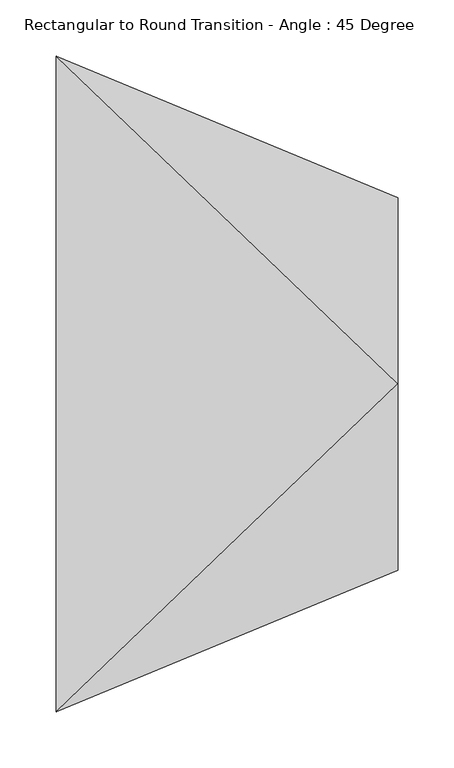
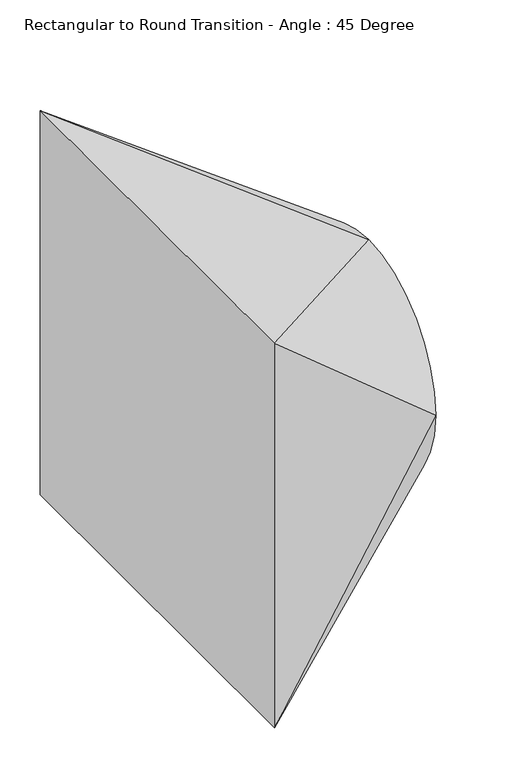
"""IFC4 building model written with IfcOpenShell, lengths in millimetres: duct fitting geometry, Rectangular to Round Transition - Angle : 45 Degree."""

from ifc_helpers import new_model, si_unit, frame, origin, place, context, project, spatial, circle_curve, source, transform, mapped, element, save
from ifc_brep_helpers import plane_surface, spline_surface, advanced_brep


def rectangular_to_round_transition_angle_45_degree_ca064078(model_context):
    return source(origin(), model_context, "Body", "AdvancedBrep", [
        advanced_brep(
        [(303.0139797, 0.0, 165.0), (303.0139797, -165.0, 0.0), (303.0139797, 0.0, -165.0), (303.0139797, 165.0, 0.0), (0.0, -290.5125, 290.5125), (0.0, 290.5125, 290.5125), (0.0, 290.5125, -290.5125), (0.0, -290.5125, -290.5125)],
        [
            (0, 1, circle_curve(frame((303.0139797, 0.0, 0.0), z_axis=(1.0, 0.0, 0.0), x_axis=(0.0, 1.0, 0.0)), 165.0)),
            (1, 2, circle_curve(frame((303.0139797, 0.0, 0.0), z_axis=(1.0, 0.0, 0.0), x_axis=(0.0, 1.0, 0.0)), 165.0)),
            (2, 3, circle_curve(frame((303.0139797, 0.0, 0.0), z_axis=(1.0, 0.0, 0.0), x_axis=(0.0, 1.0, 0.0)), 165.0)),
            (3, 0, circle_curve(frame((303.0139797, 0.0, 0.0), z_axis=(1.0, 0.0, 0.0), x_axis=(0.0, 1.0, 0.0)), 165.0)),
            (4, 5),
            (5, 6),
            (6, 7),
            (7, 4),
            (0, 4),
            (4, 1),
            (7, 1),
            (7, 2),
            (6, 2),
            (6, 3),
            (5, 3),
            (5, 0),
        ],
        [
            plane_surface(frame((303.0139797, 0.0, 0.0), z_axis=(1.0, 0.0, 0.0), x_axis=(0.0, 0.0, -1.0))),
            plane_surface(frame((0.0, 0.0, 0.0), z_axis=(-1.0, 0.0, 0.0), x_axis=(0.0, 0.0, -1.0))),
            spline_surface(2, 1, [[(0.0, -290.5125, 290.5125), (303.0139797, 0.0, 165.0)], [(0.0, -290.5125, 290.5125), (303.0139797, -165.0, 165.0)], [(0.0, -290.5125, 290.5125), (303.0139797, -165.0, 0.0)]], [3, 3], [2, 2], [0.0, 1.0], [0.0, 1.0], weights=[[1.0, 1.0], [0.7071067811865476, 0.7071067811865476], [1.0, 1.0]]),
            plane_surface(frame((0.0, -290.5125, 0.0), z_axis=(0.38268343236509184, -0.923879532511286, 0.0), x_axis=(0.0, 0.0, -1.0))),
            spline_surface(2, 1, [[(0.0, -290.5125, -290.5125), (303.0139797, -165.0, 0.0)], [(0.0, -290.5125, -290.5125), (303.0139797, -165.0, -165.0)], [(0.0, -290.5125, -290.5125), (303.0139797, 0.0, -165.0)]], [3, 3], [2, 2], [0.0, 1.0], [0.0, 1.0], weights=[[1.0, 1.0], [0.7071067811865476, 0.7071067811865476], [1.0, 1.0]]),
            plane_surface(frame((0.0, 0.0, -290.5125), z_axis=(0.38268343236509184, 0.0, -0.923879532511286), x_axis=(0.0, 1.0, 0.0))),
            spline_surface(2, 1, [[(0.0, 290.5125, -290.5125), (303.0139797, 0.0, -165.0)], [(0.0, 290.5125, -290.5125), (303.0139797, 165.0, -165.0)], [(0.0, 290.5125, -290.5125), (303.0139797, 165.0, 0.0)]], [3, 3], [2, 2], [0.0, 1.0], [0.0, 1.0], weights=[[1.0, 1.0], [0.7071067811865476, 0.7071067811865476], [1.0, 1.0]]),
            plane_surface(frame((0.0, 290.5125, 0.0), z_axis=(0.38268343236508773, 0.9238795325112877, 0.0), x_axis=(0.0, 0.0, 1.0))),
            spline_surface(2, 1, [[(0.0, 290.5125, 290.5125), (303.0139797, 165.0, 0.0)], [(0.0, 290.5125, 290.5125), (303.0139797, 165.0, 165.0)], [(0.0, 290.5125, 290.5125), (303.0139797, 0.0, 165.0)]], [3, 3], [2, 2], [0.0, 1.0], [0.0, 1.0], weights=[[1.0, 1.0], [0.7071067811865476, 0.7071067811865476], [1.0, 1.0]]),
            plane_surface(frame((0.0, 0.0, 290.5125), z_axis=(0.3826834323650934, 0.0, 0.9238795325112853), x_axis=(0.0, -1.0, 0.0))),
        ],
        [
            (0, [[1, 2, 3, 4]]),
            (1, [[5, 6, 7, 8]]),
            (2, [[-1, 9, 10]]),
            (3, [[-8, 11, -10]]),
            (4, [[-2, -11, 12]]),
            (5, [[-7, 13, -12]]),
            (6, [[-3, -13, 14]]),
            (7, [[-6, 15, -14]]),
            (8, [[-4, -15, 16]]),
            (9, [[-5, -9, -16]]),
        ],
    ),
    ])


if __name__ == "__main__":
    model = new_model("IFC4")
    model_context = context("Model", 3, world=origin())
    ifc_project = project(units=[si_unit("LENGTHUNIT", "METRE", prefix="MILLI")], contexts=[model_context])
    site = spatial("IfcSite", under=ifc_project)
    building = spatial("IfcBuilding", under=site)
    placement = place(None, origin())
    rectangular_to_round_transition_angle_45_degree_shape = rectangular_to_round_transition_angle_45_degree_ca064078(model_context)
    element("IfcDuctFitting", 1, ObjectType="Rectangular to Round Transition - Angle : 45 Degree", at=placement, inside=building, context=model_context, shape_type="MappedRepresentation", body=[
        mapped(rectangular_to_round_transition_angle_45_degree_shape, transform((0.0, 0.0, 0.0), x_axis=(1.0, 0.0, 0.0), y_axis=(0.0, 1.0, 0.0), z_axis=(0.0, 0.0, 1.0))),
    ])
    save(model, "model.ifc")
